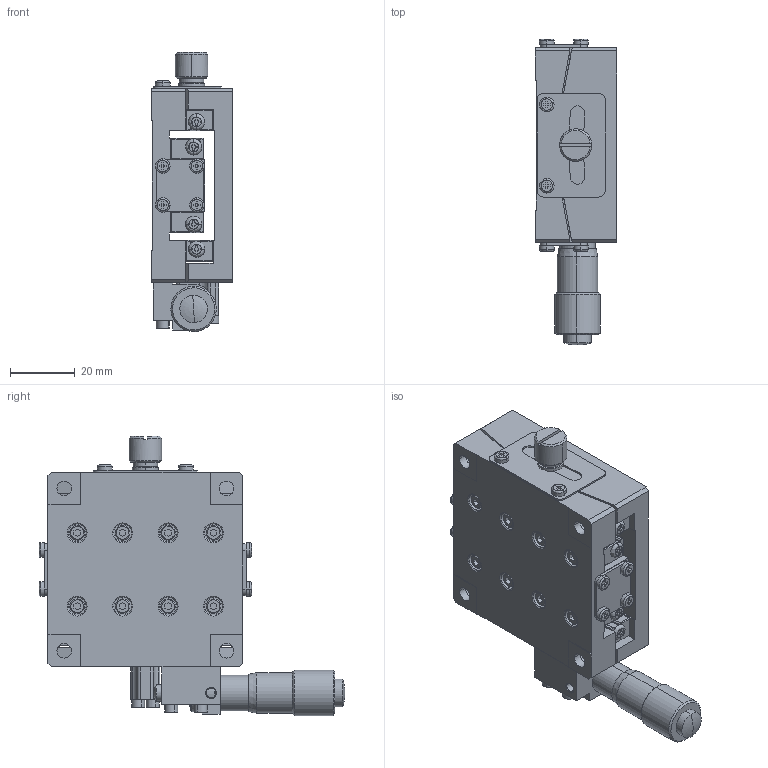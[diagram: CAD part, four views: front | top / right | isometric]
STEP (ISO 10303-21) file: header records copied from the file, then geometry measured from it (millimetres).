
FILE_DESCRIPTION (( 'STEP AP214' ), '1' );
FILE_NAME ('PHT-60A100SR.STEP', '2019-01-21T06:49:30', ( '微软用户' ), ( '微软中国' ), 'SwSTEP 2.0', 'SolidWorks 2015', '' );
FILE_SCHEMA (( 'AUTOMOTIVE_DESIGN' ));
Length unit declared in the file: millimetre
Products named in the file (2): PHT-60A100SR
Bounding box: 25 x 94.11 x 85.99 mm (x, y, z)
Volume: 73558.8 mm3; surface area: 49734 mm2
Topology: 54 solids, 54 shells, 1733 faces, 4279 edges, 2761 vertices
Faces by surface type: plane 746, cylinder 541, cone 392, bspline 54
Entity records: 73920 total; most frequent: CARTESIAN_POINT 12182, DIRECTION 9063, ORIENTED_EDGE 8550, EDGE_CURVE 4275, AXIS2_PLACEMENT_3D 3330, VERTEX_POINT 2761, LINE 2403, VECTOR 2403
